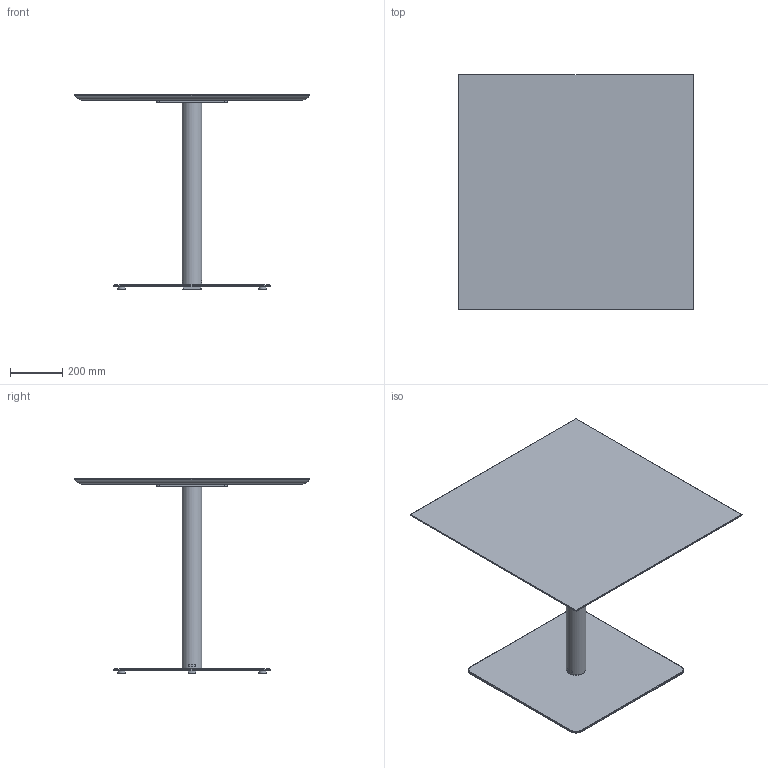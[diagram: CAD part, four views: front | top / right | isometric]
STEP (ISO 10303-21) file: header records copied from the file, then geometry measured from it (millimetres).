
FILE_DESCRIPTION( ('This file contains a STEP AP42 implementation' ,'as created by ZW3D STEP Interface translator.') ,'2;1' );
FILE_NAME( 'Henri - B_Carré - F4 - M3 - 900 x 900 x 750.stp' ,'24 912.173017', (''), ('ZWCAD Software Co.'), 'Version 1.0', 'ZW3D to STEP translator', '' );
FILE_SCHEMA(('AUTOMOTIVE_DESIGN { 1 0 10303 214 1 1 1 1 }'));
Length unit declared in the file: millimetre
Products named in the file (14): 0; PIED BISTROT PARAMETRIQUE_; COLONNE ACIER Ø76 V.02_; TUB-D076-02_; PLA-R76B-01_; CROIX ACIER 370 V.02_; CRX-X370-02_; SOCLE ACIER L 600x600 V.02_; SCL-R600-02_; PLA-R30A-01_; PLA-R30A-01; WUERTH 0276063020 Euro-screw 6.3x2 Verzinkt_; PLATEAU BISTROT PARAMETRIQUE_; insert_m6_13_
Assembly tree (22 placements, depth 3):
  0
  PIED BISTROT PARAMETRIQUE_
    COLONNE ACIER Ø76 V.02_
      TUB-D076-02_
      PLA-R76B-01_  x2
    CROIX ACIER 370 V.02_
      CRX-X370-02_
    SOCLE ACIER L 600x600 V.02_
      SCL-R600-02_
      PLA-R30A-01_
      PLA-R30A-01  x3
    WUERTH 0276063020 Euro-screw 6.3x2 Verzinkt_
    PLATEAU BISTROT PARAMETRIQUE_
      insert_m6_13_  x8
Bounding box: 900 x 900 x 744 mm (x, y, z)
Volume: 19459355.4 mm3; surface area: 2904480 mm2
Topology: 19 solids, 19 shells, 533 faces, 1306 edges, 818 vertices
Faces by surface type: plane 258, bspline 125, cylinder 102, cone 47, torus 1
Full cylindrical faces by diameter (mm): 4.88 x1, 6 x8, 6.3 x1, 8 x45, 12 x2, 14 x2, 30 x4, 72 x1, 76 x1
Entity records: 12234 total; most frequent: CARTESIAN_POINT 3472, ORIENTED_EDGE 1608, DIRECTION 1463, EDGE_CURVE 804, VERTEX_POINT 514, VECTOR 505, LINE 505, AXIS2_PLACEMENT_3D 479
